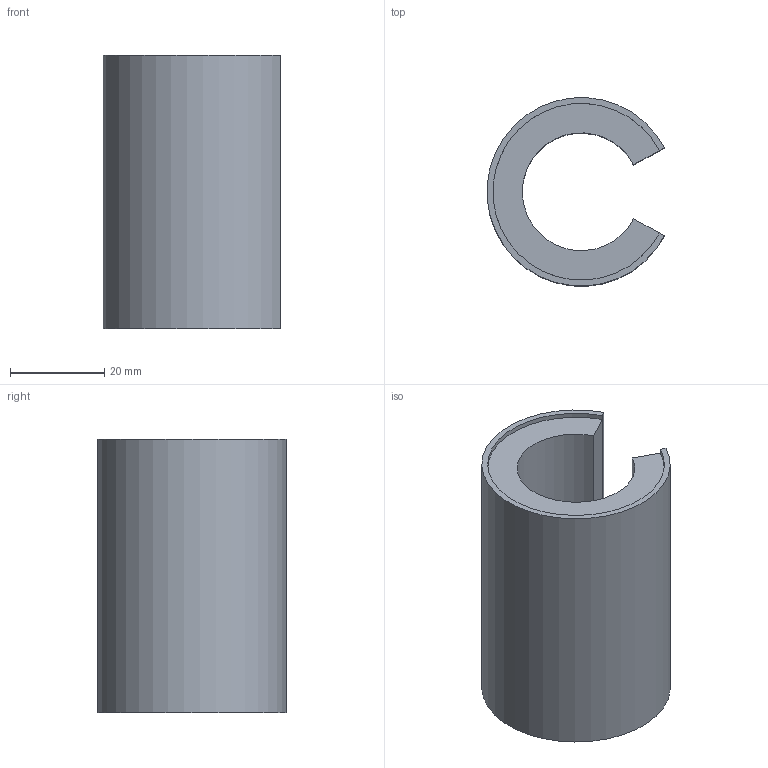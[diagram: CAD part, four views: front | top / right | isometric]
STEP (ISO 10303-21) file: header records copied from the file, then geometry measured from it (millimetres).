
FILE_DESCRIPTION(/* description */ (''),/* implementation_level */ '2;1');
FILE_NAME(/* name */ 'W:\WEBOVKY\Knecht\SBE (O)-UU\SBE (0)-25-UU\SME (O)-25-UU.stp',/* time_stamp */ '2021-03-08T14:39:29+01:00',/* author */ ('mkorenek'),/* organization */ (''),/* preprocessor_version */ 'ST-DEVELOPER v18.1',/* originating_system */ 'Autodesk Inventor 2021',/* authorisation */ '');
FILE_SCHEMA (('AUTOMOTIVE_DESIGN { 1 0 10303 214 3 1 1 }'));
Length unit declared in the file: millimetre
Products named in the file (3): LME-25-UU; vnějšek pouzdra; vnitřek pouzdra
Assembly tree (2 placements, depth 2):
  LME-25-UU
    vnějšek pouzdra
    vnitřek pouzdra
Bounding box: 37.62 x 39.93 x 58 mm (x, y, z)
Volume: 36526.4 mm3; surface area: 23389.3 mm2
Topology: 2 solids, 2 shells, 12 faces, 24 edges, 16 vertices
Faces by surface type: plane 8, cylinder 4
Entity records: 443 total; most frequent: DIRECTION 66, CARTESIAN_POINT 57, ORIENTED_EDGE 48, AXIS2_PLACEMENT_3D 25, EDGE_CURVE 24, LINE 16, VECTOR 16, VERTEX_POINT 16
